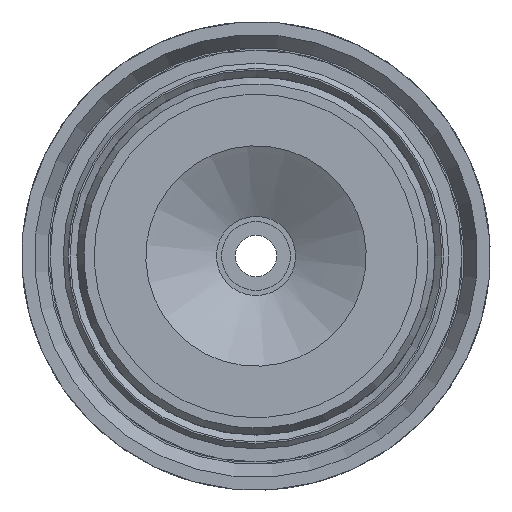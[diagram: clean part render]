
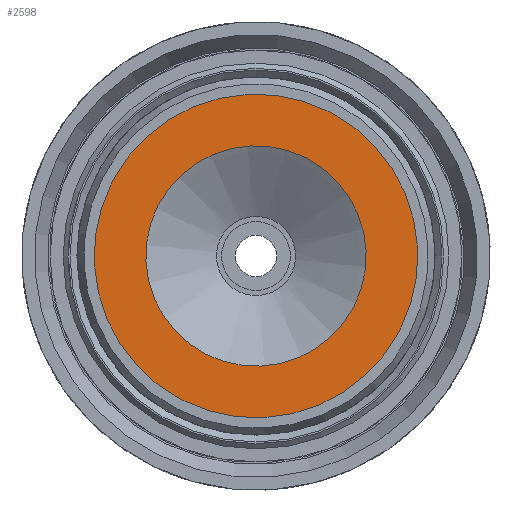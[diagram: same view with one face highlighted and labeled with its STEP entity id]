
A CAD part, front view. The second image highlights one B-rep face of the part: STEP entity #2598.
In plain terms, the highlighted planar face has unit normal (0, -1, 0).
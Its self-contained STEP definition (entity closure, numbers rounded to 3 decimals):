
#1288 = AXIS2_PLACEMENT_3D ( 'NONE', #8550, #13592, #4577 ) ;
#1983 = ORIENTED_EDGE ( 'NONE', *, *, #11411, .F. ) ;
#2598 = ADVANCED_FACE ( 'NONE', ( #9831, #15041 ), #3382, .F. ) ;
#3382 = PLANE ( 'NONE',  #1288 ) ;
#4248 = CARTESIAN_POINT ( 'NONE',  ( -12.727, 2.5, 19.755 ) ) ;
#4577 = DIRECTION ( 'NONE',  ( -0.542, 0., 0.841 ) ) ;
#6284 = CARTESIAN_POINT ( 'NONE',  ( 0., 2.5, 0. ) ) ;
#6411 = CIRCLE ( 'NONE', #9130, 16. ) ;
#7204 = AXIS2_PLACEMENT_3D ( 'NONE', #10718, #15921, #14727 ) ;
#8260 = EDGE_LOOP ( 'NONE', ( #9683 ) ) ;
#8550 = CARTESIAN_POINT ( 'NONE',  ( 13.45, 2.5, 8.665 ) ) ;
#9095 = CIRCLE ( 'NONE', #7204, 23.5 ) ;
#9130 = AXIS2_PLACEMENT_3D ( 'NONE', #6284, #16613, #14214 ) ;
#9683 = ORIENTED_EDGE ( 'NONE', *, *, #12629, .T. ) ;
#9831 = FACE_BOUND ( 'NONE', #8260, .T. ) ;
#10718 = CARTESIAN_POINT ( 'NONE',  ( 0., 2.5, 0. ) ) ;
#11411 = EDGE_CURVE ( 'NONE', #14716, #14716, #9095, .T. ) ;
#12629 = EDGE_CURVE ( 'NONE', #14156, #14156, #6411, .T. ) ;
#13592 = DIRECTION ( 'NONE',  ( 0., 1., 0. ) ) ;
#13659 = EDGE_LOOP ( 'NONE', ( #1983 ) ) ;
#14156 = VERTEX_POINT ( 'NONE', #14467 ) ;
#14214 = DIRECTION ( 'NONE',  ( -0.542, 0., 0.841 ) ) ;
#14467 = CARTESIAN_POINT ( 'NONE',  ( -8.665, 2.5, 13.45 ) ) ;
#14716 = VERTEX_POINT ( 'NONE', #4248 ) ;
#14727 = DIRECTION ( 'NONE',  ( -0.542, 0., 0.841 ) ) ;
#15041 = FACE_OUTER_BOUND ( 'NONE', #13659, .T. ) ;
#15921 = DIRECTION ( 'NONE',  ( 0., 1., 0. ) ) ;
#16613 = DIRECTION ( 'NONE',  ( 0., 1., 0. ) ) ;
